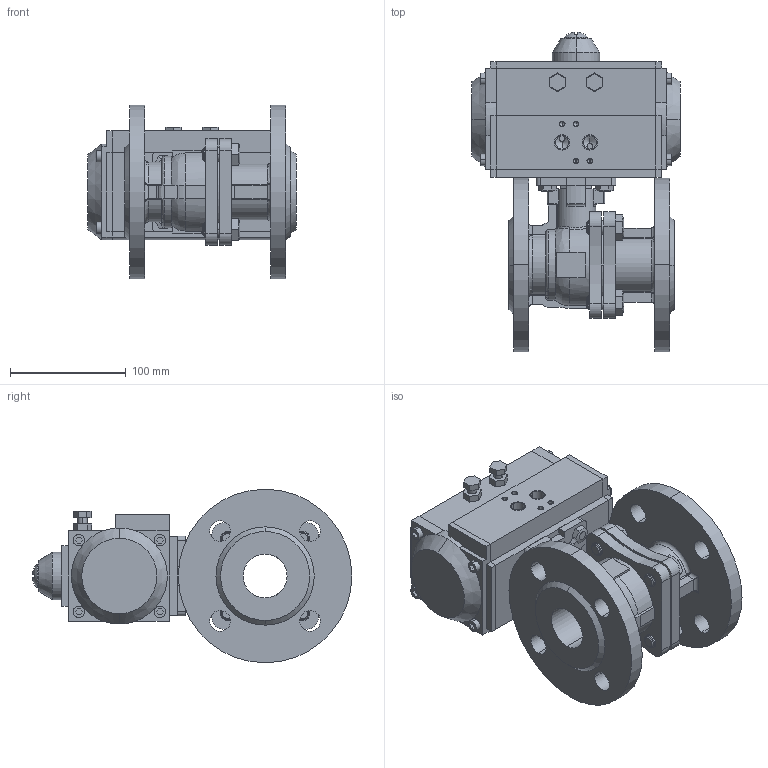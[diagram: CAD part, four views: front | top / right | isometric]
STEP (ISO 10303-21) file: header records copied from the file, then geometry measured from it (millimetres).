
FILE_DESCRIPTION((''),'2;1');
FILE_NAME('BV-22F_RPA_ASM','2024-09-11T',('USER'),(''),'PRO/ENGINEER BY PARAMETRIC TECHNOLOGY CORPORATION, 2011220','PRO/ENGINEER BY PARAMETRIC TECHNOLOGY CORPORATION, 2011220','');
FILE_SCHEMA(('CONFIG_CONTROL_DESIGN'));
Length unit declared in the file: millimetre
Products named in the file (12): KORPUS_KRAN_FL; B-7798-M12-25; SB_KRAN_FL_ASM; KORPUS_PNEVMOPRIVOD; KOLCO_18_GOST13942; KRISKA_VERX; VINT; KRISKA_LEFT; KRISKA_RIGHT; SB_PNEVMOPRIVOD_ASM; B-7798-M8-16; BV-22F_RPA_ASM
Assembly tree (17 placements, depth 3):
  BV-22F_RPA_ASM
    SB_KRAN_FL_ASM
      KORPUS_KRAN_FL
      B-7798-M12-25  x4
    SB_PNEVMOPRIVOD_ASM
      KORPUS_PNEVMOPRIVOD
      KOLCO_18_GOST13942
      KRISKA_VERX
      VINT
      KRISKA_LEFT
      KRISKA_RIGHT
    B-7798-M8-16  x4
Bounding box: 180 x 276.43 x 150 mm (x, y, z)
Volume: 2198438.2 mm3; surface area: 307995.5 mm2
Topology: 15 solids, 49 shells, 831 faces, 2123 edges, 1364 vertices
Faces by surface type: plane 410, cylinder 287, cone 82, torus 27, bspline 21, extrusion 2, sphere 2
Entity records: 23639 total; most frequent: CARTESIAN_POINT 5454, DIRECTION 3869, ORIENTED_EDGE 3550, EDGE_CURVE 1833, AXIS2_PLACEMENT_3D 1387, VERTEX_POINT 1208, VECTOR 1095, LINE 1093
